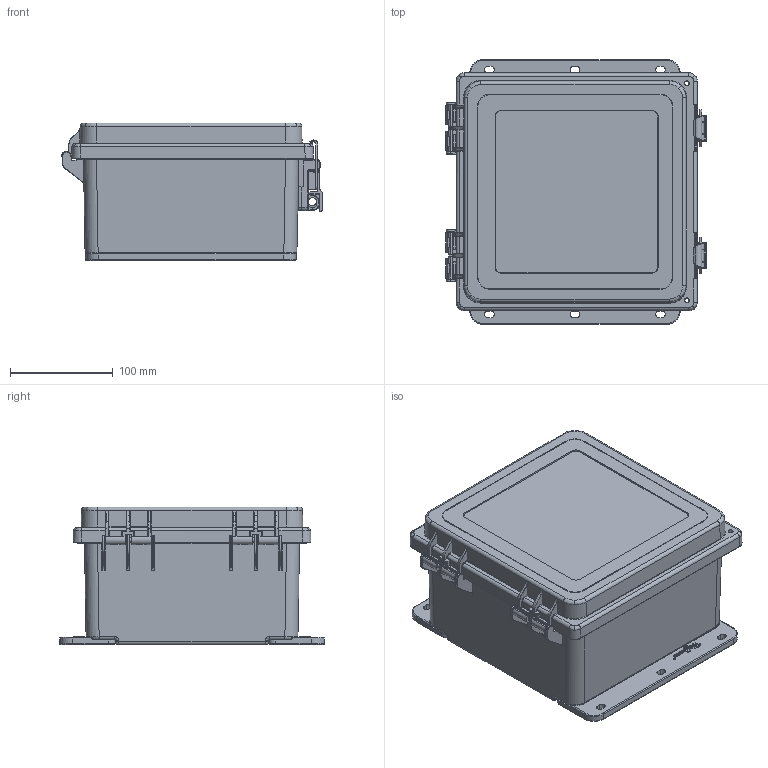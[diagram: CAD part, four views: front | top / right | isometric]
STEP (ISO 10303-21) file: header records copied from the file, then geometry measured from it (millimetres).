
FILE_DESCRIPTION (( 'STEP AP203' ), '1' );
FILE_NAME ('a884phcw.STEP', '2019-07-12T19:20:01', ( '' ), ( '' ), 'SwSTEP 2.0', 'SolidWorks 2016', '' );
FILE_SCHEMA (( 'CONFIG_CONTROL_DESIGN' ));
Length unit declared in the file: inch
Products named in the file (10): 87934975_87934975; 87934973_87934973; 87934971_87934971; 87938571_87938571; 87925598_87925598; a884phcw; 87925767_87925619; 87929596_87929596; 87952916; 87925635_87925635
Assembly tree (11 placements, depth 3):
  a884phcw
    87925598_87925598
    87952916
      87925767_87925619
      87929596_87929596
    87925635_87925635  x2
    87938571_87938571  x2
      87934975_87934975
      87934973_87934973
      87934971_87934971
Bounding box: 253.65 x 257.78 x 134.33 mm (x, y, z)
Volume: 919608.2 mm3; surface area: 589072.8 mm2
Topology: 13 solids, 13 shells, 5023 faces, 12818 edges, 7566 vertices
Faces by surface type: cylinder 1614, bspline 1333, plane 1313, sphere 379, torus 289, cone 95
Entity records: 143494 total; most frequent: CARTESIAN_POINT 64920, ORIENTED_EDGE 17814, DIRECTION 13895, EDGE_CURVE 8907, VERTEX_POINT 5419, AXIS2_PLACEMENT_3D 4967, VECTOR 3961, LINE 3961
